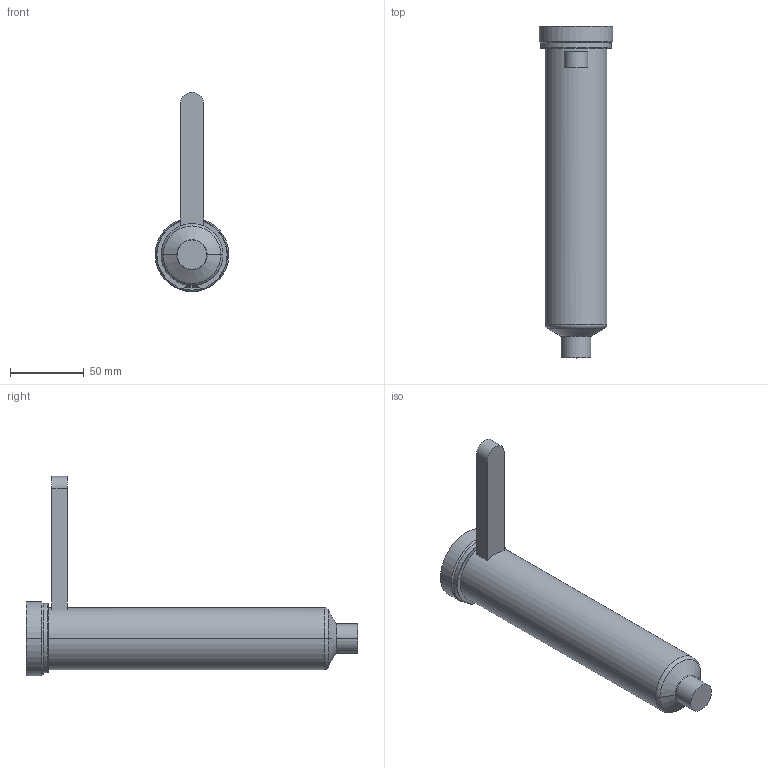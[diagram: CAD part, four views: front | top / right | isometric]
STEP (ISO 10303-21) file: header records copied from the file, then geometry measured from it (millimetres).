
FILE_DESCRIPTION((''),'2;1');
FILE_NAME('EO16_PG-FBE_WR_200_COT','2024-02-19T12:10:01',('sundharh'),(''),'CREO PARAMETRIC BY PTC INC, 2023154','CREO PARAMETRIC BY PTC INC, 2023154','');
FILE_SCHEMA(('CONFIG_CONTROL_DESIGN'));
Length unit declared in the file: millimetre
Products named in the file (1): EO16_PG-FBE_WR_200_COT
Bounding box: 50 x 225 x 135 mm (x, y, z)
Volume: 314875.7 mm3; surface area: 36768.9 mm2
Topology: 1 solids, 1 shells, 31 faces, 67 edges, 40 vertices
Faces by surface type: cylinder 11, plane 9, torus 7, cone 4
Entity records: 967 total; most frequent: CARTESIAN_POINT 234, DIRECTION 159, ORIENTED_EDGE 134, AXIS2_PLACEMENT_3D 67, EDGE_CURVE 67, VERTEX_POINT 40, CIRCLE 36, EDGE_LOOP 33
